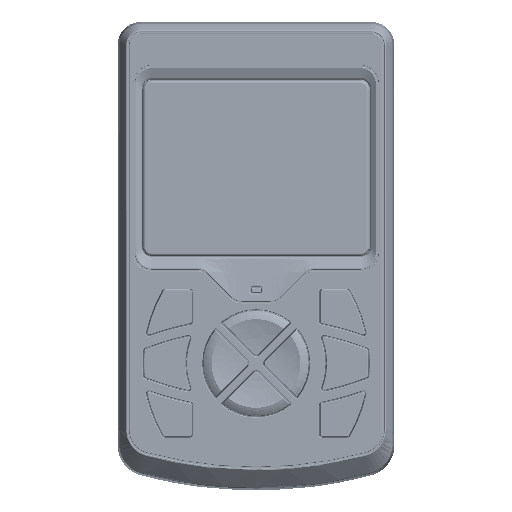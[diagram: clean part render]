
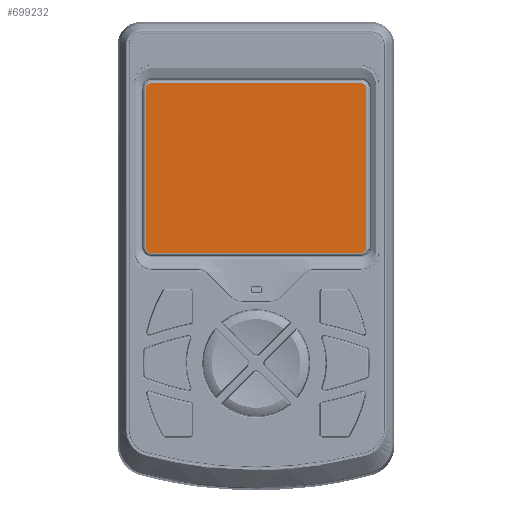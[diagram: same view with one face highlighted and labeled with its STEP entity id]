
A CAD part, top view. The second image highlights one B-rep face of the part: STEP entity #699232.
In plain terms, the highlighted planar face has unit normal (0, 0, 1).
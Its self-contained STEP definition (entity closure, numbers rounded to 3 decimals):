
#6085 = CARTESIAN_POINT ( 'NONE',  ( 38.046, 54.35, 7.77 ) ) ;
#10118 = AXIS2_PLACEMENT_3D ( 'NONE', #55806, #52308, #169908 ) ;
#10219 = ORIENTED_EDGE ( 'NONE', *, *, #170222, .T. ) ;
#19811 = CARTESIAN_POINT ( 'NONE',  ( 38.046, 54.35, 7.77 ) ) ;
#23327 = DIRECTION ( 'NONE',  ( -1., 0., 0. ) ) ;
#23682 = LINE ( 'NONE', #298771, #31495 ) ;
#29865 = EDGE_CURVE ( 'NONE', #342422, #73245, #249478, .T. ) ;
#31495 = VECTOR ( 'NONE', #137846, 1000. ) ;
#47601 = AXIS2_PLACEMENT_3D ( 'NONE', #398825, #616613, #191355 ) ;
#52308 = DIRECTION ( 'NONE',  ( 0., 0., 1. ) ) ;
#55806 = CARTESIAN_POINT ( 'NONE',  ( -35.85, 0.25, 7.77 ) ) ;
#56929 = ORIENTED_EDGE ( 'NONE', *, *, #112179, .T. ) ;
#66771 = EDGE_CURVE ( 'NONE', #373982, #107022, #580077, .T. ) ;
#73245 = VERTEX_POINT ( 'NONE', #153647 ) ;
#85247 = VERTEX_POINT ( 'NONE', #6085 ) ;
#94083 = CARTESIAN_POINT ( 'NONE',  ( 35.85, 56.546, 7.77 ) ) ;
#106199 = LINE ( 'NONE', #327803, #620369 ) ;
#107022 = VERTEX_POINT ( 'NONE', #311442 ) ;
#107090 = CARTESIAN_POINT ( 'NONE',  ( 35.85, -1.946, 7.77 ) ) ;
#112169 = VERTEX_POINT ( 'NONE', #180836 ) ;
#112179 = EDGE_CURVE ( 'NONE', #85247, #342780, #218438, .T. ) ;
#137846 = DIRECTION ( 'NONE',  ( 1., 0., 0. ) ) ;
#153647 = CARTESIAN_POINT ( 'NONE',  ( 38.046, 0.25, 7.77 ) ) ;
#169908 = DIRECTION ( 'NONE',  ( -1., 0., 0. ) ) ;
#170222 = EDGE_CURVE ( 'NONE', #112169, #373982, #603407, .T. ) ;
#180836 = CARTESIAN_POINT ( 'NONE',  ( -35.85, 56.546, 7.77 ) ) ;
#191355 = DIRECTION ( 'NONE',  ( -1., 0., 0. ) ) ;
#192767 = AXIS2_PLACEMENT_3D ( 'NONE', #312624, #530620, #316102 ) ;
#218438 = CIRCLE ( 'NONE', #47601, 2.196 ) ;
#241611 = PLANE ( 'NONE',  #684134 ) ;
#245878 = EDGE_CURVE ( 'NONE', #641428, #342422, #23682, .T. ) ;
#249478 = CIRCLE ( 'NONE', #671623, 2.196 ) ;
#255694 = DIRECTION ( 'NONE',  ( 0., 0., -1. ) ) ;
#286823 = CARTESIAN_POINT ( 'NONE',  ( -38.046, 54.35, 7.77 ) ) ;
#298771 = CARTESIAN_POINT ( 'NONE',  ( 35.85, -1.946, 7.77 ) ) ;
#309274 = FACE_OUTER_BOUND ( 'NONE', #362450, .T. ) ;
#311442 = CARTESIAN_POINT ( 'NONE',  ( -38.046, 0.25, 7.77 ) ) ;
#312624 = CARTESIAN_POINT ( 'NONE',  ( -35.85, 54.35, 7.77 ) ) ;
#316102 = DIRECTION ( 'NONE',  ( -1., 0., 0. ) ) ;
#327803 = CARTESIAN_POINT ( 'NONE',  ( -35.85, 56.546, 7.77 ) ) ;
#329507 = EDGE_CURVE ( 'NONE', #342780, #112169, #106199, .T. ) ;
#333835 = ORIENTED_EDGE ( 'NONE', *, *, #66771, .T. ) ;
#339779 = CARTESIAN_POINT ( 'NONE',  ( -35.85, -1.946, 7.77 ) ) ;
#342422 = VERTEX_POINT ( 'NONE', #107090 ) ;
#342780 = VERTEX_POINT ( 'NONE', #94083 ) ;
#352055 = DIRECTION ( 'NONE',  ( 0., 1., 0. ) ) ;
#355548 = EDGE_CURVE ( 'NONE', #73245, #85247, #509419, .T. ) ;
#356238 = ORIENTED_EDGE ( 'NONE', *, *, #245878, .T. ) ;
#362450 = EDGE_LOOP ( 'NONE', ( #629471, #10219, #333835, #586282, #356238, #563916, #514205, #56929 ) ) ;
#373982 = VERTEX_POINT ( 'NONE', #286823 ) ;
#388430 = DIRECTION ( 'NONE',  ( -1., 0., 0. ) ) ;
#398825 = CARTESIAN_POINT ( 'NONE',  ( 35.85, 54.35, 7.77 ) ) ;
#415785 = CARTESIAN_POINT ( 'NONE',  ( -38.046, 0.25, 7.77 ) ) ;
#473826 = DIRECTION ( 'NONE',  ( -1., 0., 0. ) ) ;
#509419 = LINE ( 'NONE', #19811, #572174 ) ;
#514205 = ORIENTED_EDGE ( 'NONE', *, *, #355548, .T. ) ;
#521665 = VECTOR ( 'NONE', #697466, 1000. ) ;
#530620 = DIRECTION ( 'NONE',  ( 0., 0., 1. ) ) ;
#534897 = CIRCLE ( 'NONE', #10118, 2.196 ) ;
#563005 = DIRECTION ( 'NONE',  ( 0., 0., 1. ) ) ;
#563916 = ORIENTED_EDGE ( 'NONE', *, *, #29865, .T. ) ;
#566462 = EDGE_CURVE ( 'NONE', #107022, #641428, #534897, .T. ) ;
#570373 = CARTESIAN_POINT ( 'NONE',  ( 37.72, 60.72, 7.77 ) ) ;
#572174 = VECTOR ( 'NONE', #352055, 1000. ) ;
#573531 = CARTESIAN_POINT ( 'NONE',  ( 35.85, 0.25, 7.77 ) ) ;
#580077 = LINE ( 'NONE', #415785, #521665 ) ;
#586282 = ORIENTED_EDGE ( 'NONE', *, *, #566462, .T. ) ;
#603407 = CIRCLE ( 'NONE', #192767, 2.196 ) ;
#616613 = DIRECTION ( 'NONE',  ( 0., 0., 1. ) ) ;
#620369 = VECTOR ( 'NONE', #388430, 1000. ) ;
#629471 = ORIENTED_EDGE ( 'NONE', *, *, #329507, .T. ) ;
#641428 = VERTEX_POINT ( 'NONE', #339779 ) ;
#671623 = AXIS2_PLACEMENT_3D ( 'NONE', #573531, #563005, #23327 ) ;
#684134 = AXIS2_PLACEMENT_3D ( 'NONE', #570373, #255694, #473826 ) ;
#697466 = DIRECTION ( 'NONE',  ( 0., -1., 0. ) ) ;
#699232 = ADVANCED_FACE ( 'NONE', ( #309274 ), #241611, .F. ) ;
